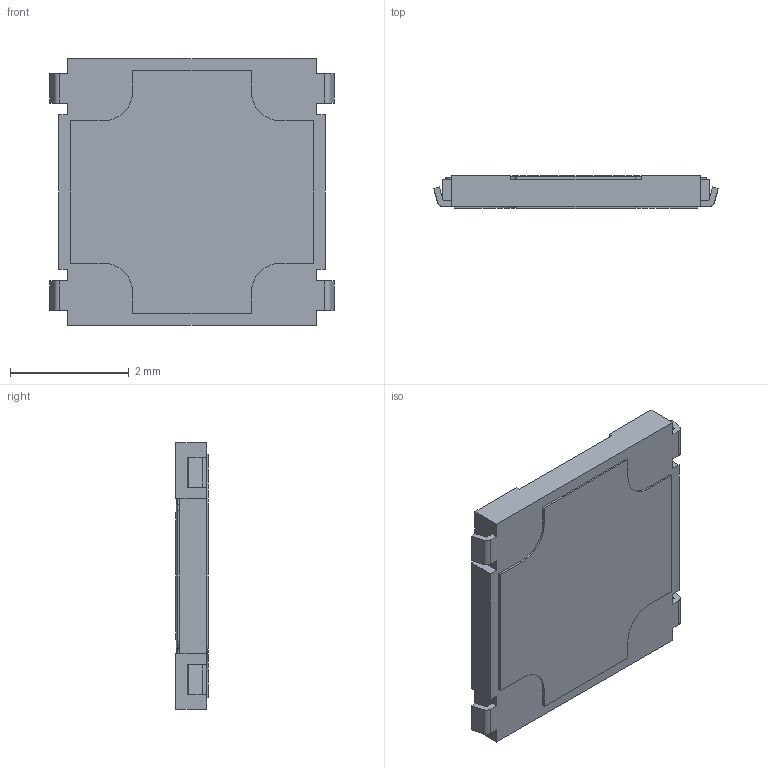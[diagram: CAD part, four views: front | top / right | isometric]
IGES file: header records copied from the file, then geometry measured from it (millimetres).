
Start section:  PTC IGES file: NTC033-XK1J-X___T.igs
Global section: file name: NTC033-XK1J-X___T.igs; native system: Pro/ENGINEER by Parametric Technology Corporation; preprocessor: 2008230; author: Rd_Ken; organization: Unknown; date: 20120907.145038; units: millimetre
Bounding box: 4.8 x 0.55 x 4.5 mm (x, y, z)
Volume: 10.3 mm3; surface area: 51.9 mm2
Topology: 1 solids, 1 shells, 123 faces, 350 edges, 232 vertices
Faces by surface type: bspline 93, revolution 30
